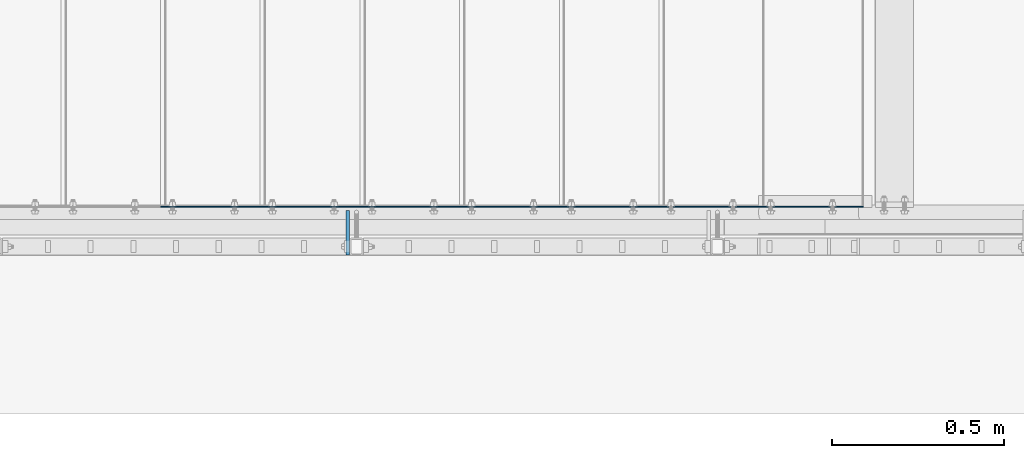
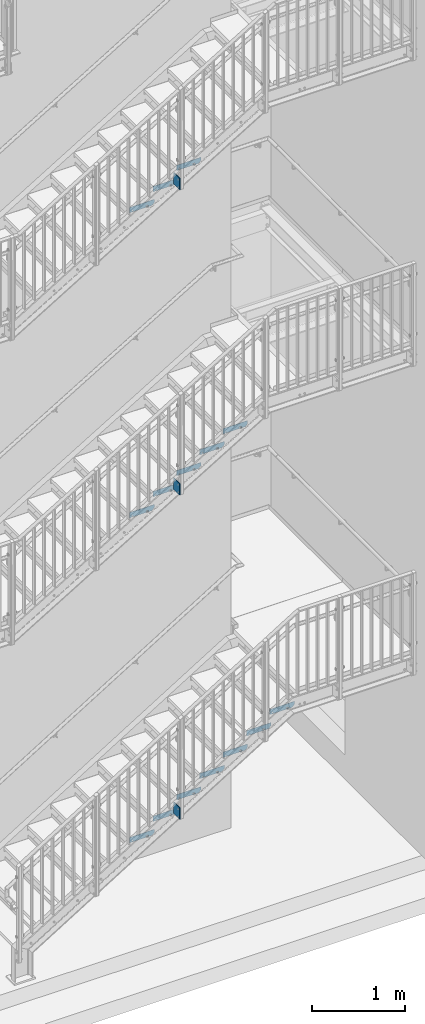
# One storey, part 59 of 410: 18 plates, 36 openings.
"""IFC2X3 building model written with IfcOpenShell, lengths in millimetres."""

from ifc_helpers import new_model, entity, si_unit, converted_unit, point, frame, frame_2d, origin, origin_with_axes, origin_2d_with_axis, place, context, project, spatial, polyline, circle_curve, line_curve, trimmed, segment, composite_curve, circle, outline, extrude, material, layer, layer_set, element, save


model = new_model("IFC2X3")

# Units and contexts
model_context = context("Model", 3, precision=1e-09, world=origin_with_axes())
ifc_project = project(units=[si_unit("LENGTHUNIT", "METRE", prefix="MILLI"), si_unit("AREAUNIT", "SQUARE_METRE"), si_unit("VOLUMEUNIT", "CUBIC_METRE"), converted_unit("PLANEANGLEUNIT", "DEGREE", entity("IfcPlaneAngleMeasure", 0.01745329), si_unit("PLANEANGLEUNIT", "RADIAN"), dimensions=[0, 0, 0, 0, 0, 0, 0])], contexts=[model_context])

# Site, building, storey
site_placement = place(None, origin_with_axes())
site = spatial("IfcSite", under=ifc_project, at=site_placement, Name="mKR Teilneubau & Sanierung BA1 - Ostfildern", CompositionType="ELEMENT")
building_placement = place(site_placement, origin_with_axes())
building = spatial("IfcBuilding", under=site, at=building_placement, Name="Struktur 1", CompositionType="ELEMENT")
storey_placement = place(building_placement, origin_with_axes())
storey = spatial("IfcBuildingStorey", under=building, at=storey_placement, Name="Default Storey", CompositionType="ELEMENT", Elevation=0.0)

# Plate, openings
ifc_material = material(Name="S235JR")
ifc_layer_1 = layer(ifc_material, 3.0)
ifc_layer_set_1 = layer_set([ifc_layer_1], Name="S235JR")
plate_1_placement = place(None, frame((-255.0, 15522.999999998, -3397.2), z_axis=(0.0, -1.0, 0.0), x_axis=(0.0, 0.0, -1.0)))
plate_1 = element("IfcPlate", 1, at=plate_1_placement, inside=storey, material=ifc_layer_set_1, Name="Grate_Step#3", ObjectType="Grate_Step#3", context=model_context, shape_type="SweptSolid", body=[
    extrude(outline(polyline([(0.0, 0.0), (70.0, 0.0), (70.0, 275.0), (40.0, 305.0), (0.0, 305.0), (0.0, 0.0)])), origin_with_axes(), (0.0, 0.0, 1.0), 3.0),
])
opening_1_placement = place(plate_1_placement, frame((55.0, 215.0, -0.5), z_axis=(0.0, 0.0, 1.0), x_axis=(0.0, 1.0, 0.0)))
element("IfcOpeningElement", 2, at=opening_1_placement, cuts=plate_1, ObjectType="Opening", context=model_context, shape_type="SweptSolid", body=[
    extrude(outline(composite_curve([segment(trimmed(line_curve((-9.5, -7.001), (1.0, 0.0), 19.0), [point((-9.5, -7.001))], [point((9.5, -7.001))], True, "CARTESIAN"), True, "CONTINUOUS"), segment(trimmed(circle_curve(frame_2d((9.5, 0.0), x_axis=(1.0, 0.0)), 7.001), [point((9.5, -7.001))], [point((9.5, 7.001))], True, "CARTESIAN"), True, "CONTINUOUS"), segment(trimmed(line_curve((9.5, 7.001), (-1.0, 0.0), 19.0), [point((9.5, 7.001))], [point((-9.5, 7.001))], True, "CARTESIAN"), True, "CONTINUOUS"), segment(trimmed(circle_curve(frame_2d((-9.5, 0.0), x_axis=(1.0, 0.0)), 7.001), [point((-9.5, 7.001))], [point((-9.5, -7.001))], True, "CARTESIAN"), True, "CONTINUOUS")], self_intersect=False)), origin(), (0.0, 0.0, 1.0), 4.0),
])
opening_2_placement = place(plate_1_placement, frame((55.0, 35.0, -0.5), z_axis=(0.0, 0.0, 1.0), x_axis=(0.0, 1.0, 0.0)))
element("IfcOpeningElement", 3, at=opening_2_placement, cuts=plate_1, ObjectType="Opening", context=model_context, shape_type="SweptSolid", body=[
    extrude(circle(Radius=7.001, at=origin_2d_with_axis()), origin(), (0.0, 0.0, 1.0), 4.0),
])

plate_2_placement = place(None, frame((35.0, 15522.999999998, -3218.4), z_axis=(0.0, -1.0, 0.0), x_axis=(0.0, 0.0, -1.0)))
plate_2 = element("IfcPlate", 4, at=plate_2_placement, inside=storey, material=ifc_layer_set_1, Name="Grate_Step#3", ObjectType="Grate_Step#3", context=model_context, shape_type="SweptSolid", body=[
    extrude(outline(polyline([(0.0, 0.0), (70.0, 0.0), (70.0, 275.0), (40.0, 305.0), (0.0, 305.0), (0.0, 0.0)])), origin_with_axes(), (0.0, 0.0, 1.0), 3.0),
])
opening_3_placement = place(plate_2_placement, frame((55.0, 35.0, -0.5), z_axis=(0.0, 0.0, 1.0), x_axis=(0.0, 1.0, 0.0)))
element("IfcOpeningElement", 5, at=opening_3_placement, cuts=plate_2, ObjectType="Opening", context=model_context, shape_type="SweptSolid", body=[
    extrude(circle(Radius=7.001, at=origin_2d_with_axis()), origin(), (0.0, 0.0, 1.0), 4.0),
])
opening_4_placement = place(plate_2_placement, frame((55.0, 215.0, -0.5), z_axis=(0.0, 0.0, 1.0), x_axis=(0.0, 1.0, 0.0)))
element("IfcOpeningElement", 6, at=opening_4_placement, cuts=plate_2, ObjectType="Opening", context=model_context, shape_type="SweptSolid", body=[
    extrude(outline(composite_curve([segment(trimmed(line_curve((-9.5, -7.001), (1.0, 0.0), 19.0), [point((-9.5, -7.001))], [point((9.5, -7.001))], True, "CARTESIAN"), True, "CONTINUOUS"), segment(trimmed(circle_curve(frame_2d((9.5, 0.0), x_axis=(1.0, 0.0)), 7.001), [point((9.5, -7.001))], [point((9.5, 7.001))], True, "CARTESIAN"), True, "CONTINUOUS"), segment(trimmed(line_curve((9.5, 7.001), (-1.0, 0.0), 19.0), [point((9.5, 7.001))], [point((-9.5, 7.001))], True, "CARTESIAN"), True, "CONTINUOUS"), segment(trimmed(circle_curve(frame_2d((-9.5, 0.0), x_axis=(1.0, 0.0)), 7.001), [point((-9.5, 7.001))], [point((-9.5, -7.001))], True, "CARTESIAN"), True, "CONTINUOUS")], self_intersect=False)), origin(), (0.0, 0.0, 1.0), 4.0),
])

plate_3_placement = place(None, frame((325.0, 15522.999999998, -3039.6), z_axis=(0.0, -1.0, 0.0), x_axis=(0.0, 0.0, -1.0)))
plate_3 = element("IfcPlate", 7, at=plate_3_placement, inside=storey, material=ifc_layer_set_1, Name="Grate_Step#3", ObjectType="Grate_Step#3", context=model_context, shape_type="SweptSolid", body=[
    extrude(outline(polyline([(0.0, 0.0), (70.0, 0.0), (70.0, 275.0), (40.0, 305.0), (0.0, 305.0), (0.0, 0.0)])), origin_with_axes(), (0.0, 0.0, 1.0), 3.0),
])
opening_5_placement = place(plate_3_placement, frame((55.0, 215.0, -0.5), z_axis=(0.0, 0.0, 1.0), x_axis=(0.0, 1.0, 0.0)))
element("IfcOpeningElement", 8, at=opening_5_placement, cuts=plate_3, ObjectType="Opening", context=model_context, shape_type="SweptSolid", body=[
    extrude(outline(composite_curve([segment(trimmed(line_curve((-9.5, -7.001), (1.0, 0.0), 19.0), [point((-9.5, -7.001))], [point((9.5, -7.001))], True, "CARTESIAN"), True, "CONTINUOUS"), segment(trimmed(circle_curve(frame_2d((9.5, 0.0), x_axis=(1.0, 0.0)), 7.001), [point((9.5, -7.001))], [point((9.5, 7.001))], True, "CARTESIAN"), True, "CONTINUOUS"), segment(trimmed(line_curve((9.5, 7.001), (-1.0, 0.0), 19.0), [point((9.5, 7.001))], [point((-9.5, 7.001))], True, "CARTESIAN"), True, "CONTINUOUS"), segment(trimmed(circle_curve(frame_2d((-9.5, 0.0), x_axis=(1.0, 0.0)), 7.001), [point((-9.5, 7.001))], [point((-9.5, -7.001))], True, "CARTESIAN"), True, "CONTINUOUS")], self_intersect=False)), origin(), (0.0, 0.0, 1.0), 4.0),
])
opening_6_placement = place(plate_3_placement, frame((55.0, 35.0, -0.5), z_axis=(0.0, 0.0, 1.0), x_axis=(0.0, 1.0, 0.0)))
element("IfcOpeningElement", 9, at=opening_6_placement, cuts=plate_3, ObjectType="Opening", context=model_context, shape_type="SweptSolid", body=[
    extrude(circle(Radius=7.001, at=origin_2d_with_axis()), origin(), (0.0, 0.0, 1.0), 4.0),
])

plate_4_placement = place(None, frame((615.0, 15522.999999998, -2860.8), z_axis=(0.0, -1.0, 0.0), x_axis=(0.0, 0.0, -1.0)))
plate_4 = element("IfcPlate", 10, at=plate_4_placement, inside=storey, material=ifc_layer_set_1, Name="Grate_Step#3", ObjectType="Grate_Step#3", context=model_context, shape_type="SweptSolid", body=[
    extrude(outline(polyline([(0.0, 0.0), (70.0, 0.0), (70.0, 275.0), (40.0, 305.0), (0.0, 305.0), (0.0, 0.0)])), origin_with_axes(), (0.0, 0.0, 1.0), 3.0),
])
opening_7_placement = place(plate_4_placement, frame((55.0, 215.0, -0.5), z_axis=(0.0, 0.0, 1.0), x_axis=(0.0, 1.0, 0.0)))
element("IfcOpeningElement", 11, at=opening_7_placement, cuts=plate_4, ObjectType="Opening", context=model_context, shape_type="SweptSolid", body=[
    extrude(outline(composite_curve([segment(trimmed(line_curve((-9.5, -7.001), (1.0, 0.0), 19.0), [point((-9.5, -7.001))], [point((9.5, -7.001))], True, "CARTESIAN"), True, "CONTINUOUS"), segment(trimmed(circle_curve(frame_2d((9.5, 0.0), x_axis=(1.0, 0.0)), 7.001), [point((9.5, -7.001))], [point((9.5, 7.001))], True, "CARTESIAN"), True, "CONTINUOUS"), segment(trimmed(line_curve((9.5, 7.001), (-1.0, 0.0), 19.0), [point((9.5, 7.001))], [point((-9.5, 7.001))], True, "CARTESIAN"), True, "CONTINUOUS"), segment(trimmed(circle_curve(frame_2d((-9.5, 0.0), x_axis=(1.0, 0.0)), 7.001), [point((-9.5, 7.001))], [point((-9.5, -7.001))], True, "CARTESIAN"), True, "CONTINUOUS")], self_intersect=False)), origin(), (0.0, 0.0, 1.0), 4.0),
])
opening_8_placement = place(plate_4_placement, frame((55.0, 35.0, -0.5), z_axis=(0.0, 0.0, 1.0), x_axis=(0.0, 1.0, 0.0)))
element("IfcOpeningElement", 12, at=opening_8_placement, cuts=plate_4, ObjectType="Opening", context=model_context, shape_type="SweptSolid", body=[
    extrude(circle(Radius=7.001, at=origin_2d_with_axis()), origin(), (0.0, 0.0, 1.0), 4.0),
])

plate_5_placement = place(None, frame((905.0, 15522.999999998, -2682.0), z_axis=(0.0, -1.0, 0.0), x_axis=(0.0, 0.0, -1.0)))
plate_5 = element("IfcPlate", 13, at=plate_5_placement, inside=storey, material=ifc_layer_set_1, Name="Grate_Step#3", ObjectType="Grate_Step#3", context=model_context, shape_type="SweptSolid", body=[
    extrude(outline(polyline([(0.0, 0.0), (70.0, 0.0), (70.0, 275.0), (40.0, 305.0), (0.0, 305.0), (0.0, 0.0)])), origin_with_axes(), (0.0, 0.0, 1.0), 3.0),
])
opening_9_placement = place(plate_5_placement, frame((55.0, 215.0, -0.5), z_axis=(0.0, 0.0, 1.0), x_axis=(0.0, 1.0, 0.0)))
element("IfcOpeningElement", 14, at=opening_9_placement, cuts=plate_5, ObjectType="Opening", context=model_context, shape_type="SweptSolid", body=[
    extrude(outline(composite_curve([segment(trimmed(line_curve((-9.5, -7.001), (1.0, 0.0), 19.0), [point((-9.5, -7.001))], [point((9.5, -7.001))], True, "CARTESIAN"), True, "CONTINUOUS"), segment(trimmed(circle_curve(frame_2d((9.5, 0.0), x_axis=(1.0, 0.0)), 7.001), [point((9.5, -7.001))], [point((9.5, 7.001))], True, "CARTESIAN"), True, "CONTINUOUS"), segment(trimmed(line_curve((9.5, 7.001), (-1.0, 0.0), 19.0), [point((9.5, 7.001))], [point((-9.5, 7.001))], True, "CARTESIAN"), True, "CONTINUOUS"), segment(trimmed(circle_curve(frame_2d((-9.5, 0.0), x_axis=(1.0, 0.0)), 7.001), [point((-9.5, 7.001))], [point((-9.5, -7.001))], True, "CARTESIAN"), True, "CONTINUOUS")], self_intersect=False)), origin(), (0.0, 0.0, 1.0), 4.0),
])
opening_10_placement = place(plate_5_placement, frame((55.0, 35.0, -0.5), z_axis=(0.0, 0.0, 1.0), x_axis=(0.0, 1.0, 0.0)))
element("IfcOpeningElement", 15, at=opening_10_placement, cuts=plate_5, ObjectType="Opening", context=model_context, shape_type="SweptSolid", body=[
    extrude(circle(Radius=7.001, at=origin_2d_with_axis()), origin(), (0.0, 0.0, 1.0), 4.0),
])

plate_6_placement = place(None, frame((1195.0, 15522.999999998, -2503.2), z_axis=(0.0, -1.0, 0.0), x_axis=(0.0, 0.0, -1.0)))
plate_6 = element("IfcPlate", 16, at=plate_6_placement, inside=storey, material=ifc_layer_set_1, Name="Grate_Step#3", ObjectType="Grate_Step#3", context=model_context, shape_type="SweptSolid", body=[
    extrude(outline(polyline([(0.0, 0.0), (70.0, 0.0), (70.0, 275.0), (40.0, 305.0), (0.0, 305.0), (0.0, 0.0)])), origin_with_axes(), (0.0, 0.0, 1.0), 3.0),
])
opening_11_placement = place(plate_6_placement, frame((55.0, 215.0, -0.5), z_axis=(0.0, 0.0, 1.0), x_axis=(0.0, 1.0, 0.0)))
element("IfcOpeningElement", 17, at=opening_11_placement, cuts=plate_6, ObjectType="Opening", context=model_context, shape_type="SweptSolid", body=[
    extrude(outline(composite_curve([segment(trimmed(line_curve((-9.5, -7.001), (1.0, 0.0), 19.0), [point((-9.5, -7.001))], [point((9.5, -7.001))], True, "CARTESIAN"), True, "CONTINUOUS"), segment(trimmed(circle_curve(frame_2d((9.5, 0.0), x_axis=(1.0, 0.0)), 7.001), [point((9.5, -7.001))], [point((9.5, 7.001))], True, "CARTESIAN"), True, "CONTINUOUS"), segment(trimmed(line_curve((9.5, 7.001), (-1.0, 0.0), 19.0), [point((9.5, 7.001))], [point((-9.5, 7.001))], True, "CARTESIAN"), True, "CONTINUOUS"), segment(trimmed(circle_curve(frame_2d((-9.5, 0.0), x_axis=(1.0, 0.0)), 7.001), [point((-9.5, 7.001))], [point((-9.5, -7.001))], True, "CARTESIAN"), True, "CONTINUOUS")], self_intersect=False)), origin(), (0.0, 0.0, 1.0), 4.0),
])
opening_12_placement = place(plate_6_placement, frame((55.0, 35.0, -0.5), z_axis=(0.0, 0.0, 1.0), x_axis=(0.0, 1.0, 0.0)))
element("IfcOpeningElement", 18, at=opening_12_placement, cuts=plate_6, ObjectType="Opening", context=model_context, shape_type="SweptSolid", body=[
    extrude(circle(Radius=7.001, at=origin_2d_with_axis()), origin(), (0.0, 0.0, 1.0), 4.0),
])

plate_7_placement = place(None, frame((1485.0, 15522.999999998, -2324.4), z_axis=(0.0, -1.0, 0.0), x_axis=(0.0, 0.0, -1.0)))
plate_7 = element("IfcPlate", 19, at=plate_7_placement, inside=storey, material=ifc_layer_set_1, Name="Grate_Step#3", ObjectType="Grate_Step#3", context=model_context, shape_type="SweptSolid", body=[
    extrude(outline(polyline([(0.0, 0.0), (70.0, 0.0), (70.0, 275.0), (40.0, 305.0), (0.0, 305.0), (0.0, 0.0)])), origin_with_axes(), (0.0, 0.0, 1.0), 3.0),
])
opening_13_placement = place(plate_7_placement, frame((55.0, 35.0, -0.5), z_axis=(0.0, 0.0, 1.0), x_axis=(0.0, 1.0, 0.0)))
element("IfcOpeningElement", 20, at=opening_13_placement, cuts=plate_7, ObjectType="Opening", context=model_context, shape_type="SweptSolid", body=[
    extrude(circle(Radius=7.001, at=origin_2d_with_axis()), origin(), (0.0, 0.0, 1.0), 4.0),
])
opening_14_placement = place(plate_7_placement, frame((55.0, 215.0, -0.5), z_axis=(0.0, 0.0, 1.0), x_axis=(0.0, 1.0, 0.0)))
element("IfcOpeningElement", 21, at=opening_14_placement, cuts=plate_7, ObjectType="Opening", context=model_context, shape_type="SweptSolid", body=[
    extrude(outline(composite_curve([segment(trimmed(line_curve((-9.5, -7.001), (1.0, 0.0), 19.0), [point((-9.5, -7.001))], [point((9.5, -7.001))], True, "CARTESIAN"), True, "CONTINUOUS"), segment(trimmed(circle_curve(frame_2d((9.5, 0.0), x_axis=(1.0, 0.0)), 7.001), [point((9.5, -7.001))], [point((9.5, 7.001))], True, "CARTESIAN"), True, "CONTINUOUS"), segment(trimmed(line_curve((9.5, 7.001), (-1.0, 0.0), 19.0), [point((9.5, 7.001))], [point((-9.5, 7.001))], True, "CARTESIAN"), True, "CONTINUOUS"), segment(trimmed(circle_curve(frame_2d((-9.5, 0.0), x_axis=(1.0, 0.0)), 7.001), [point((-9.5, 7.001))], [point((-9.5, -7.001))], True, "CARTESIAN"), True, "CONTINUOUS")], self_intersect=False)), origin(), (0.0, 0.0, 1.0), 4.0),
])

plate_8_placement = place(None, frame((-255.0, 15522.999999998, 869.5652175), z_axis=(0.0, -1.0, 0.0), x_axis=(0.0, 0.0, -1.0)))
plate_8 = element("IfcPlate", 22, at=plate_8_placement, inside=storey, material=ifc_layer_set_1, Name="Grate_Step#3", ObjectType="Grate_Step#3", context=model_context, shape_type="SweptSolid", body=[
    extrude(outline(polyline([(0.0, 0.0), (70.0, 0.0), (70.0, 275.0), (40.0, 305.0), (0.0, 305.0), (0.0, 0.0)])), origin_with_axes(), (0.0, 0.0, 1.0), 3.0),
])
opening_15_placement = place(plate_8_placement, frame((55.0, 215.0, -0.5), z_axis=(0.0, 0.0, 1.0), x_axis=(0.0, 1.0, 0.0)))
element("IfcOpeningElement", 23, at=opening_15_placement, cuts=plate_8, ObjectType="Opening", context=model_context, shape_type="SweptSolid", body=[
    extrude(outline(composite_curve([segment(trimmed(line_curve((-9.5, -7.001), (1.0, 0.0), 19.0), [point((-9.5, -7.001))], [point((9.5, -7.001))], True, "CARTESIAN"), True, "CONTINUOUS"), segment(trimmed(circle_curve(frame_2d((9.5, 0.0), x_axis=(1.0, 0.0)), 7.001), [point((9.5, -7.001))], [point((9.5, 7.001))], True, "CARTESIAN"), True, "CONTINUOUS"), segment(trimmed(line_curve((9.5, 7.001), (-1.0, 0.0), 19.0), [point((9.5, 7.001))], [point((-9.5, 7.001))], True, "CARTESIAN"), True, "CONTINUOUS"), segment(trimmed(circle_curve(frame_2d((-9.5, 0.0), x_axis=(1.0, 0.0)), 7.001), [point((-9.5, 7.001))], [point((-9.5, -7.001))], True, "CARTESIAN"), True, "CONTINUOUS")], self_intersect=False)), origin(), (0.0, 0.0, 1.0), 4.0),
])
opening_16_placement = place(plate_8_placement, frame((55.0, 35.0, -0.5), z_axis=(0.0, 0.0, 1.0), x_axis=(0.0, 1.0, 0.0)))
element("IfcOpeningElement", 24, at=opening_16_placement, cuts=plate_8, ObjectType="Opening", context=model_context, shape_type="SweptSolid", body=[
    extrude(circle(Radius=7.001, at=origin_2d_with_axis()), origin(), (0.0, 0.0, 1.0), 4.0),
])

plate_9_placement = place(None, frame((35.0, 15522.999999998, 1043.478261), z_axis=(0.0, -1.0, 0.0), x_axis=(0.0, 0.0, -1.0)))
plate_9 = element("IfcPlate", 25, at=plate_9_placement, inside=storey, material=ifc_layer_set_1, Name="Grate_Step#3", ObjectType="Grate_Step#3", context=model_context, shape_type="SweptSolid", body=[
    extrude(outline(polyline([(0.0, 0.0), (70.0, 0.0), (70.0, 275.0), (40.0, 305.0), (0.0, 305.0), (0.0, 0.0)])), origin_with_axes(), (0.0, 0.0, 1.0), 3.0),
])
opening_17_placement = place(plate_9_placement, frame((55.0, 215.0, -0.5), z_axis=(0.0, 0.0, 1.0), x_axis=(0.0, 1.0, 0.0)))
element("IfcOpeningElement", 26, at=opening_17_placement, cuts=plate_9, ObjectType="Opening", context=model_context, shape_type="SweptSolid", body=[
    extrude(outline(composite_curve([segment(trimmed(line_curve((-9.5, -7.001), (1.0, 0.0), 19.0), [point((-9.5, -7.001))], [point((9.5, -7.001))], True, "CARTESIAN"), True, "CONTINUOUS"), segment(trimmed(circle_curve(frame_2d((9.5, 0.0), x_axis=(1.0, 0.0)), 7.001), [point((9.5, -7.001))], [point((9.5, 7.001))], True, "CARTESIAN"), True, "CONTINUOUS"), segment(trimmed(line_curve((9.5, 7.001), (-1.0, 0.0), 19.0), [point((9.5, 7.001))], [point((-9.5, 7.001))], True, "CARTESIAN"), True, "CONTINUOUS"), segment(trimmed(circle_curve(frame_2d((-9.5, 0.0), x_axis=(1.0, 0.0)), 7.001), [point((-9.5, 7.001))], [point((-9.5, -7.001))], True, "CARTESIAN"), True, "CONTINUOUS")], self_intersect=False)), origin(), (0.0, 0.0, 1.0), 4.0),
])
opening_18_placement = place(plate_9_placement, frame((55.0, 35.0, -0.5), z_axis=(0.0, 0.0, 1.0), x_axis=(0.0, 1.0, 0.0)))
element("IfcOpeningElement", 27, at=opening_18_placement, cuts=plate_9, ObjectType="Opening", context=model_context, shape_type="SweptSolid", body=[
    extrude(circle(Radius=7.001, at=origin_2d_with_axis()), origin(), (0.0, 0.0, 1.0), 4.0),
])

plate_10_placement = place(None, frame((325.0, 15522.999999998, 1217.3913045), z_axis=(0.0, -1.0, 0.0), x_axis=(0.0, 0.0, -1.0)))
plate_10 = element("IfcPlate", 28, at=plate_10_placement, inside=storey, material=ifc_layer_set_1, Name="Grate_Step#3", ObjectType="Grate_Step#3", context=model_context, shape_type="SweptSolid", body=[
    extrude(outline(polyline([(0.0, 0.0), (70.0, 0.0), (70.0, 275.0), (40.0, 305.0), (0.0, 305.0), (0.0, 0.0)])), origin_with_axes(), (0.0, 0.0, 1.0), 3.0),
])
opening_19_placement = place(plate_10_placement, frame((55.0, 215.0, -0.5), z_axis=(0.0, 0.0, 1.0), x_axis=(0.0, 1.0, 0.0)))
element("IfcOpeningElement", 29, at=opening_19_placement, cuts=plate_10, ObjectType="Opening", context=model_context, shape_type="SweptSolid", body=[
    extrude(outline(composite_curve([segment(trimmed(line_curve((-9.5, -7.001), (1.0, 0.0), 19.0), [point((-9.5, -7.001))], [point((9.5, -7.001))], True, "CARTESIAN"), True, "CONTINUOUS"), segment(trimmed(circle_curve(frame_2d((9.5, 0.0), x_axis=(1.0, 0.0)), 7.001), [point((9.5, -7.001))], [point((9.5, 7.001))], True, "CARTESIAN"), True, "CONTINUOUS"), segment(trimmed(line_curve((9.5, 7.001), (-1.0, 0.0), 19.0), [point((9.5, 7.001))], [point((-9.5, 7.001))], True, "CARTESIAN"), True, "CONTINUOUS"), segment(trimmed(circle_curve(frame_2d((-9.5, 0.0), x_axis=(1.0, 0.0)), 7.001), [point((-9.5, 7.001))], [point((-9.5, -7.001))], True, "CARTESIAN"), True, "CONTINUOUS")], self_intersect=False)), origin(), (0.0, 0.0, 1.0), 4.0),
])
opening_20_placement = place(plate_10_placement, frame((55.0, 35.0, -0.5), z_axis=(0.0, 0.0, 1.0), x_axis=(0.0, 1.0, 0.0)))
element("IfcOpeningElement", 30, at=opening_20_placement, cuts=plate_10, ObjectType="Opening", context=model_context, shape_type="SweptSolid", body=[
    extrude(circle(Radius=7.001, at=origin_2d_with_axis()), origin(), (0.0, 0.0, 1.0), 4.0),
])

plate_11_placement = place(None, frame((615.0, 15522.999999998, 1391.304348), z_axis=(0.0, -1.0, 0.0), x_axis=(0.0, 0.0, -1.0)))
plate_11 = element("IfcPlate", 31, at=plate_11_placement, inside=storey, material=ifc_layer_set_1, Name="Grate_Step#3", ObjectType="Grate_Step#3", context=model_context, shape_type="SweptSolid", body=[
    extrude(outline(polyline([(0.0, 0.0), (70.0, 0.0), (70.0, 275.0), (40.0, 305.0), (0.0, 305.0), (0.0, 0.0)])), origin_with_axes(), (0.0, 0.0, 1.0), 3.0),
])
opening_21_placement = place(plate_11_placement, frame((55.0, 215.0, -0.5), z_axis=(0.0, 0.0, 1.0), x_axis=(0.0, 1.0, 0.0)))
element("IfcOpeningElement", 32, at=opening_21_placement, cuts=plate_11, ObjectType="Opening", context=model_context, shape_type="SweptSolid", body=[
    extrude(outline(composite_curve([segment(trimmed(line_curve((-9.5, -7.001), (1.0, 0.0), 19.0), [point((-9.5, -7.001))], [point((9.5, -7.001))], True, "CARTESIAN"), True, "CONTINUOUS"), segment(trimmed(circle_curve(frame_2d((9.5, 0.0), x_axis=(1.0, 0.0)), 7.001), [point((9.5, -7.001))], [point((9.5, 7.001))], True, "CARTESIAN"), True, "CONTINUOUS"), segment(trimmed(line_curve((9.5, 7.001), (-1.0, 0.0), 19.0), [point((9.5, 7.001))], [point((-9.5, 7.001))], True, "CARTESIAN"), True, "CONTINUOUS"), segment(trimmed(circle_curve(frame_2d((-9.5, 0.0), x_axis=(1.0, 0.0)), 7.001), [point((-9.5, 7.001))], [point((-9.5, -7.001))], True, "CARTESIAN"), True, "CONTINUOUS")], self_intersect=False)), origin(), (0.0, 0.0, 1.0), 4.0),
])
opening_22_placement = place(plate_11_placement, frame((55.0, 35.0, -0.5), z_axis=(0.0, 0.0, 1.0), x_axis=(0.0, 1.0, 0.0)))
element("IfcOpeningElement", 33, at=opening_22_placement, cuts=plate_11, ObjectType="Opening", context=model_context, shape_type="SweptSolid", body=[
    extrude(circle(Radius=7.001, at=origin_2d_with_axis()), origin(), (0.0, 0.0, 1.0), 4.0),
])

plate_12_placement = place(None, frame((905.0, 15522.999999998, 1565.2173915), z_axis=(0.0, -1.0, 0.0), x_axis=(0.0, 0.0, -1.0)))
plate_12 = element("IfcPlate", 34, at=plate_12_placement, inside=storey, material=ifc_layer_set_1, Name="Grate_Step#3", ObjectType="Grate_Step#3", context=model_context, shape_type="SweptSolid", body=[
    extrude(outline(polyline([(0.0, 0.0), (70.0, 0.0), (70.0, 275.0), (40.0, 305.0), (0.0, 305.0), (0.0, 0.0)])), origin_with_axes(), (0.0, 0.0, 1.0), 3.0),
])
opening_23_placement = place(plate_12_placement, frame((55.0, 35.0, -0.5), z_axis=(0.0, 0.0, 1.0), x_axis=(0.0, 1.0, 0.0)))
element("IfcOpeningElement", 35, at=opening_23_placement, cuts=plate_12, ObjectType="Opening", context=model_context, shape_type="SweptSolid", body=[
    extrude(circle(Radius=7.001, at=origin_2d_with_axis()), origin(), (0.0, 0.0, 1.0), 4.0),
])
opening_24_placement = place(plate_12_placement, frame((55.0, 215.0, -0.5), z_axis=(0.0, 0.0, 1.0), x_axis=(0.0, 1.0, 0.0)))
element("IfcOpeningElement", 36, at=opening_24_placement, cuts=plate_12, ObjectType="Opening", context=model_context, shape_type="SweptSolid", body=[
    extrude(outline(composite_curve([segment(trimmed(line_curve((-9.5, -7.001), (1.0, 0.0), 19.0), [point((-9.5, -7.001))], [point((9.5, -7.001))], True, "CARTESIAN"), True, "CONTINUOUS"), segment(trimmed(circle_curve(frame_2d((9.5, 0.0), x_axis=(1.0, 0.0)), 7.001), [point((9.5, -7.001))], [point((9.5, 7.001))], True, "CARTESIAN"), True, "CONTINUOUS"), segment(trimmed(line_curve((9.5, 7.001), (-1.0, 0.0), 19.0), [point((9.5, 7.001))], [point((-9.5, 7.001))], True, "CARTESIAN"), True, "CONTINUOUS"), segment(trimmed(circle_curve(frame_2d((-9.5, 0.0), x_axis=(1.0, 0.0)), 7.001), [point((-9.5, 7.001))], [point((-9.5, -7.001))], True, "CARTESIAN"), True, "CONTINUOUS")], self_intersect=False)), origin(), (0.0, 0.0, 1.0), 4.0),
])

plate_13_placement = place(None, frame((-255.0, 15522.999999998, 4875.0), z_axis=(0.0, -1.0, 0.0), x_axis=(0.0, 0.0, -1.0)))
plate_13 = element("IfcPlate", 37, at=plate_13_placement, inside=storey, material=ifc_layer_set_1, Name="Grate_Step#3", ObjectType="Grate_Step#3", context=model_context, shape_type="SweptSolid", body=[
    extrude(outline(polyline([(0.0, 0.0), (70.0, 0.0), (70.0, 275.0), (40.0, 305.0), (0.0, 305.0), (0.0, 0.0)])), origin_with_axes(), (0.0, 0.0, 1.0), 3.0),
])
opening_25_placement = place(plate_13_placement, frame((55.0, 215.0, -0.5), z_axis=(0.0, 0.0, 1.0), x_axis=(0.0, 1.0, 0.0)))
element("IfcOpeningElement", 38, at=opening_25_placement, cuts=plate_13, ObjectType="Opening", context=model_context, shape_type="SweptSolid", body=[
    extrude(outline(composite_curve([segment(trimmed(line_curve((-9.5, -7.001), (1.0, 0.0), 19.0), [point((-9.5, -7.001))], [point((9.5, -7.001))], True, "CARTESIAN"), True, "CONTINUOUS"), segment(trimmed(circle_curve(frame_2d((9.5, 0.0), x_axis=(1.0, 0.0)), 7.001), [point((9.5, -7.001))], [point((9.5, 7.001))], True, "CARTESIAN"), True, "CONTINUOUS"), segment(trimmed(line_curve((9.5, 7.001), (-1.0, 0.0), 19.0), [point((9.5, 7.001))], [point((-9.5, 7.001))], True, "CARTESIAN"), True, "CONTINUOUS"), segment(trimmed(circle_curve(frame_2d((-9.5, 0.0), x_axis=(1.0, 0.0)), 7.001), [point((-9.5, 7.001))], [point((-9.5, -7.001))], True, "CARTESIAN"), True, "CONTINUOUS")], self_intersect=False)), origin(), (0.0, 0.0, 1.0), 4.0),
])
opening_26_placement = place(plate_13_placement, frame((55.0, 35.0, -0.5), z_axis=(0.0, 0.0, 1.0), x_axis=(0.0, 1.0, 0.0)))
element("IfcOpeningElement", 39, at=opening_26_placement, cuts=plate_13, ObjectType="Opening", context=model_context, shape_type="SweptSolid", body=[
    extrude(circle(Radius=7.001, at=origin_2d_with_axis()), origin(), (0.0, 0.0, 1.0), 4.0),
])

plate_14_placement = place(None, frame((35.0, 15522.999999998, 5050.0), z_axis=(0.0, -1.0, 0.0), x_axis=(0.0, 0.0, -1.0)))
plate_14 = element("IfcPlate", 40, at=plate_14_placement, inside=storey, material=ifc_layer_set_1, Name="Grate_Step#3", ObjectType="Grate_Step#3", context=model_context, shape_type="SweptSolid", body=[
    extrude(outline(polyline([(0.0, 0.0), (70.0, 0.0), (70.0, 275.0), (40.0, 305.0), (0.0, 305.0), (0.0, 0.0)])), origin_with_axes(), (0.0, 0.0, 1.0), 3.0),
])
opening_27_placement = place(plate_14_placement, frame((55.0, 35.0, -0.5), z_axis=(0.0, 0.0, 1.0), x_axis=(0.0, 1.0, 0.0)))
element("IfcOpeningElement", 41, at=opening_27_placement, cuts=plate_14, ObjectType="Opening", context=model_context, shape_type="SweptSolid", body=[
    extrude(circle(Radius=7.001, at=origin_2d_with_axis()), origin(), (0.0, 0.0, 1.0), 4.0),
])
opening_28_placement = place(plate_14_placement, frame((55.0, 215.0, -0.5), z_axis=(0.0, 0.0, 1.0), x_axis=(0.0, 1.0, 0.0)))
element("IfcOpeningElement", 42, at=opening_28_placement, cuts=plate_14, ObjectType="Opening", context=model_context, shape_type="SweptSolid", body=[
    extrude(outline(composite_curve([segment(trimmed(line_curve((-9.5, -7.001), (1.0, 0.0), 19.0), [point((-9.5, -7.001))], [point((9.5, -7.001))], True, "CARTESIAN"), True, "CONTINUOUS"), segment(trimmed(circle_curve(frame_2d((9.5, 0.0), x_axis=(1.0, 0.0)), 7.001), [point((9.5, -7.001))], [point((9.5, 7.001))], True, "CARTESIAN"), True, "CONTINUOUS"), segment(trimmed(line_curve((9.5, 7.001), (-1.0, 0.0), 19.0), [point((9.5, 7.001))], [point((-9.5, 7.001))], True, "CARTESIAN"), True, "CONTINUOUS"), segment(trimmed(circle_curve(frame_2d((-9.5, 0.0), x_axis=(1.0, 0.0)), 7.001), [point((-9.5, 7.001))], [point((-9.5, -7.001))], True, "CARTESIAN"), True, "CONTINUOUS")], self_intersect=False)), origin(), (0.0, 0.0, 1.0), 4.0),
])

plate_15_placement = place(None, frame((325.0, 15522.999999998, 5225.0), z_axis=(0.0, -1.0, 0.0), x_axis=(0.0, 0.0, -1.0)))
plate_15 = element("IfcPlate", 43, at=plate_15_placement, inside=storey, material=ifc_layer_set_1, Name="Grate_Step#3", ObjectType="Grate_Step#3", context=model_context, shape_type="SweptSolid", body=[
    extrude(outline(polyline([(0.0, 0.0), (70.0, 0.0), (70.0, 275.0), (40.0, 305.0), (0.0, 305.0), (0.0, 0.0)])), origin_with_axes(), (0.0, 0.0, 1.0), 3.0),
])
opening_29_placement = place(plate_15_placement, frame((55.0, 35.0, -0.5), z_axis=(0.0, 0.0, 1.0), x_axis=(0.0, 1.0, 0.0)))
element("IfcOpeningElement", 44, at=opening_29_placement, cuts=plate_15, ObjectType="Opening", context=model_context, shape_type="SweptSolid", body=[
    extrude(circle(Radius=7.001, at=origin_2d_with_axis()), origin(), (0.0, 0.0, 1.0), 4.0),
])
opening_30_placement = place(plate_15_placement, frame((55.0, 215.0, -0.5), z_axis=(0.0, 0.0, 1.0), x_axis=(0.0, 1.0, 0.0)))
element("IfcOpeningElement", 45, at=opening_30_placement, cuts=plate_15, ObjectType="Opening", context=model_context, shape_type="SweptSolid", body=[
    extrude(outline(composite_curve([segment(trimmed(line_curve((-9.5, -7.001), (1.0, 0.0), 19.0), [point((-9.5, -7.001))], [point((9.5, -7.001))], True, "CARTESIAN"), True, "CONTINUOUS"), segment(trimmed(circle_curve(frame_2d((9.5, 0.0), x_axis=(1.0, 0.0)), 7.001), [point((9.5, -7.001))], [point((9.5, 7.001))], True, "CARTESIAN"), True, "CONTINUOUS"), segment(trimmed(line_curve((9.5, 7.001), (-1.0, 0.0), 19.0), [point((9.5, 7.001))], [point((-9.5, 7.001))], True, "CARTESIAN"), True, "CONTINUOUS"), segment(trimmed(circle_curve(frame_2d((-9.5, 0.0), x_axis=(1.0, 0.0)), 7.001), [point((-9.5, 7.001))], [point((-9.5, -7.001))], True, "CARTESIAN"), True, "CONTINUOUS")], self_intersect=False)), origin(), (0.0, 0.0, 1.0), 4.0),
])

ifc_layer_2 = layer(ifc_material, 10.0)
ifc_layer_set_2 = layer_set([ifc_layer_2], Name="S235JR")
plate_16_placement = place(None, frame((295.001468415, 15445.999999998, 5075.403689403), z_axis=(-1.0, 0.0, 0.0), x_axis=(0.0, -1.0, 0.0)))
plate_16 = element("IfcPlate", 46, at=plate_16_placement, inside=storey, material=ifc_layer_set_2, Name="-", ObjectType="-", context=model_context, shape_type="SweptSolid", body=[
    extrude(outline(polyline([(-65.0, -75.0), (65.0, -75.0), (65.0, 75.0), (-65.0, 75.0), (-65.0, -75.0)])), origin_with_axes(), (0.0, 0.0, 1.0), 10.0),
])
opening_31_placement = place(plate_16_placement, frame((40.0, 0.0, -0.5), z_axis=(0.0, 0.0, 1.0), x_axis=(1.0, 0.0, 0.0)))
element("IfcOpeningElement", 47, at=opening_31_placement, cuts=plate_16, ObjectType="Opening", context=model_context, shape_type="SweptSolid", body=[
    extrude(circle(Radius=7.001, at=frame_2d((0.0, 50.0), x_axis=(1.0, 0.0))), origin(), (0.0, 0.0, 1.0), 11.0),
])
opening_32_placement = place(plate_16_placement, frame((40.0, 0.0, -0.5), z_axis=(0.0, 0.0, 1.0), x_axis=(1.0, 0.0, 0.0)))
element("IfcOpeningElement", 48, at=opening_32_placement, cuts=plate_16, ObjectType="Opening", context=model_context, shape_type="SweptSolid", body=[
    extrude(circle(Radius=7.001, at=frame_2d((0.0, -50.0), x_axis=(1.0, 0.0))), origin(), (0.0, 0.0, 1.0), 11.0),
])

plate_17_placement = place(None, frame((295.001468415, 15445.999999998, 1068.138704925), z_axis=(-1.0, 0.0, 0.0), x_axis=(0.0, -1.0, 0.0)))
plate_17 = element("IfcPlate", 49, at=plate_17_placement, inside=storey, material=ifc_layer_set_2, Name="-", ObjectType="-", context=model_context, shape_type="SweptSolid", body=[
    extrude(outline(polyline([(-65.0, -75.0), (65.0, -75.0), (65.0, 75.0), (-65.0, 75.0), (-65.0, -75.0)])), origin_with_axes(), (0.0, 0.0, 1.0), 10.0),
])
opening_33_placement = place(plate_17_placement, frame((40.0, 0.0, -0.5), z_axis=(0.0, 0.0, 1.0), x_axis=(1.0, 0.0, 0.0)))
element("IfcOpeningElement", 50, at=opening_33_placement, cuts=plate_17, ObjectType="Opening", context=model_context, shape_type="SweptSolid", body=[
    extrude(circle(Radius=7.001, at=frame_2d((0.0, 50.0), x_axis=(1.0, 0.0))), origin(), (0.0, 0.0, 1.0), 11.0),
])
opening_34_placement = place(plate_17_placement, frame((40.0, 0.0, -0.5), z_axis=(0.0, 0.0, 1.0), x_axis=(1.0, 0.0, 0.0)))
element("IfcOpeningElement", 51, at=opening_34_placement, cuts=plate_17, ObjectType="Opening", context=model_context, shape_type="SweptSolid", body=[
    extrude(circle(Radius=7.001, at=frame_2d((0.0, -50.0), x_axis=(1.0, 0.0))), origin(), (0.0, 0.0, 1.0), 11.0),
])

plate_18_placement = place(None, frame((295.001468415, 15445.999999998, -3190.405514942), z_axis=(-1.0, 0.0, 0.0), x_axis=(0.0, -1.0, 0.0)))
plate_18 = element("IfcPlate", 52, at=plate_18_placement, inside=storey, material=ifc_layer_set_2, Name="-", ObjectType="-", context=model_context, shape_type="SweptSolid", body=[
    extrude(outline(polyline([(-65.0, -75.0), (65.0, -75.0), (65.0, 75.0), (-65.0, 75.0), (-65.0, -75.0)])), origin_with_axes(), (0.0, 0.0, 1.0), 10.0),
])
opening_35_placement = place(plate_18_placement, frame((40.0, 0.0, -0.5), z_axis=(0.0, 0.0, 1.0), x_axis=(1.0, 0.0, 0.0)))
element("IfcOpeningElement", 53, at=opening_35_placement, cuts=plate_18, ObjectType="Opening", context=model_context, shape_type="SweptSolid", body=[
    extrude(circle(Radius=7.001, at=frame_2d((0.0, 50.0), x_axis=(1.0, 0.0))), origin(), (0.0, 0.0, 1.0), 11.0),
])
opening_36_placement = place(plate_18_placement, frame((40.0, 0.0, -0.5), z_axis=(0.0, 0.0, 1.0), x_axis=(1.0, 0.0, 0.0)))
element("IfcOpeningElement", 54, at=opening_36_placement, cuts=plate_18, ObjectType="Opening", context=model_context, shape_type="SweptSolid", body=[
    extrude(circle(Radius=7.001, at=frame_2d((0.0, -50.0), x_axis=(1.0, 0.0))), origin(), (0.0, 0.0, 1.0), 11.0),
])

save(model, "model.ifc")
